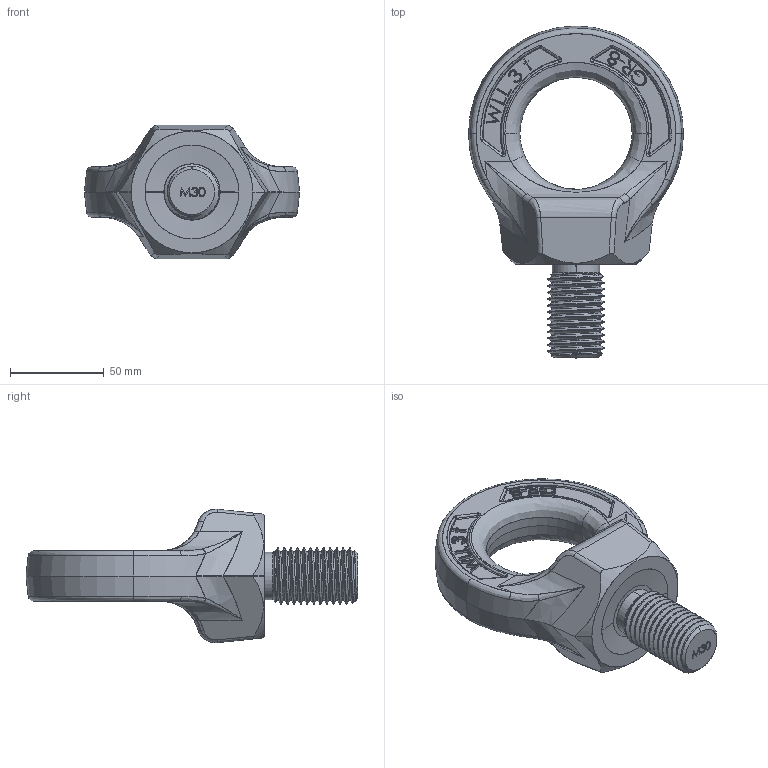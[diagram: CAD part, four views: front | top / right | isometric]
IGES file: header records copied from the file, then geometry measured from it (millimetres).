
Start section: SolidWorks IGES file using analytic representation for surfaces
Global section: file name: C:\Users\Brenton\Documents\Townley\HTEB\HTEB30\HTEB30.IGS; native system: SolidWorks 2012; preprocessor: SolidWorks 2012; author: Brenton; date: 141007.160315; units: millimetre
Bounding box: 115 x 177.5 x 71.41 mm (x, y, z)
Surface area: 44235.7 mm2 (no closed solid volume)
Topology: 0 solids, 0 shells, 792 faces, 9684 edges, 9655 vertices
Faces by surface type: bspline 523, revolution 269
